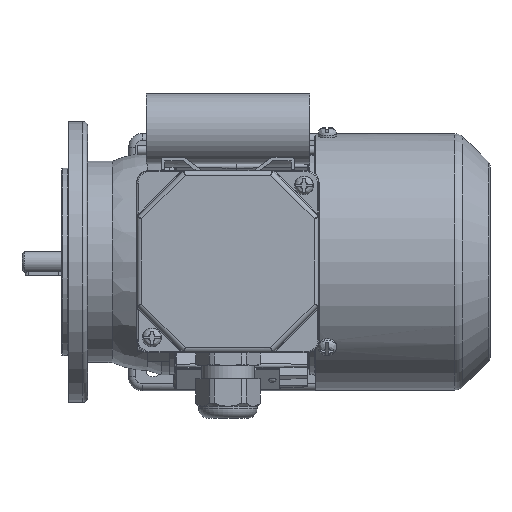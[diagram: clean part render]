
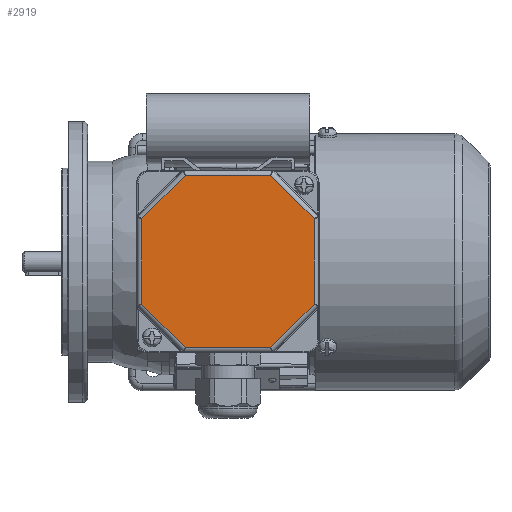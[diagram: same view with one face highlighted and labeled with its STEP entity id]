
A CAD part, top view. The second image highlights one B-rep face of the part: STEP entity #2919.
In plain terms, the highlighted planar face has unit normal (0, 0, 1).
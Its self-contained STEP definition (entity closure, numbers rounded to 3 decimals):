
#2919 = ADVANCED_FACE( '', ( #6850 ), #6851, .T. );
#6850 = FACE_OUTER_BOUND( '', #13266, .T. );
#6851 = PLANE( '', #13267 );
#13266 = EDGE_LOOP( '', ( #29585, #29586, #29587, #29588, #29589, #29590, #29591, #29592 ) );
#13267 = AXIS2_PLACEMENT_3D( '', #29593, #29594, #29595 );
#29585 = ORIENTED_EDGE( '', *, *, #44481, .T. );
#29586 = ORIENTED_EDGE( '', *, *, #44482, .T. );
#29587 = ORIENTED_EDGE( '', *, *, #44483, .T. );
#29588 = ORIENTED_EDGE( '', *, *, #44484, .T. );
#29589 = ORIENTED_EDGE( '', *, *, #44485, .T. );
#29590 = ORIENTED_EDGE( '', *, *, #44486, .T. );
#29591 = ORIENTED_EDGE( '', *, *, #44487, .T. );
#29592 = ORIENTED_EDGE( '', *, *, #44488, .T. );
#29593 = CARTESIAN_POINT( '', ( -39., 39., 12. ) );
#29594 = DIRECTION( '', ( 0., 0., 1. ) );
#29595 = DIRECTION( '', ( 1., 0., 0. ) );
#44481 = EDGE_CURVE( '', #52466, #52467, #52468, .F. );
#44482 = EDGE_CURVE( '', #52467, #52469, #52470, .T. );
#44483 = EDGE_CURVE( '', #52469, #52471, #52472, .F. );
#44484 = EDGE_CURVE( '', #52471, #52473, #52474, .T. );
#44485 = EDGE_CURVE( '', #52473, #52475, #52476, .F. );
#44486 = EDGE_CURVE( '', #52475, #52477, #52478, .T. );
#44487 = EDGE_CURVE( '', #52477, #52479, #52480, .F. );
#44488 = EDGE_CURVE( '', #52479, #52466, #52481, .T. );
#52466 = VERTEX_POINT( '', #63921 );
#52467 = VERTEX_POINT( '', #63922 );
#52468 = LINE( '', #63923, #63924 );
#52469 = VERTEX_POINT( '', #63925 );
#52470 = LINE( '', #63926, #63927 );
#52471 = VERTEX_POINT( '', #63928 );
#52472 = LINE( '', #63929, #63930 );
#52473 = VERTEX_POINT( '', #63931 );
#52474 = LINE( '', #63932, #63933 );
#52475 = VERTEX_POINT( '', #63934 );
#52476 = LINE( '', #63935, #63936 );
#52477 = VERTEX_POINT( '', #63937 );
#52478 = LINE( '', #63938, #63939 );
#52479 = VERTEX_POINT( '', #63940 );
#52480 = LINE( '', #63941, #63942 );
#52481 = LINE( '', #63943, #63944 );
#63921 = CARTESIAN_POINT( '', ( 36.825, -18.255, 12. ) );
#63922 = CARTESIAN_POINT( '', ( 36.825, 18.255, 12. ) );
#63923 = CARTESIAN_POINT( '', ( 36.825, 19.069, 12. ) );
#63924 = VECTOR( '', #81946, 1000. );
#63925 = CARTESIAN_POINT( '', ( 18.255, 36.825, 12. ) );
#63926 = CARTESIAN_POINT( '', ( 17.679, 37.401, 12. ) );
#63927 = VECTOR( '', #81947, 1000. );
#63928 = CARTESIAN_POINT( '', ( -18.255, 36.825, 12. ) );
#63929 = CARTESIAN_POINT( '', ( -19.069, 36.825, 12. ) );
#63930 = VECTOR( '', #81948, 1000. );
#63931 = CARTESIAN_POINT( '', ( -36.825, 18.255, 12. ) );
#63932 = CARTESIAN_POINT( '', ( -37.401, 17.679, 12. ) );
#63933 = VECTOR( '', #81949, 1000. );
#63934 = CARTESIAN_POINT( '', ( -36.825, -18.255, 12. ) );
#63935 = CARTESIAN_POINT( '', ( -36.825, -19.069, 12. ) );
#63936 = VECTOR( '', #81950, 1000. );
#63937 = CARTESIAN_POINT( '', ( -18.255, -36.825, 12. ) );
#63938 = CARTESIAN_POINT( '', ( -17.679, -37.401, 12. ) );
#63939 = VECTOR( '', #81951, 1000. );
#63940 = CARTESIAN_POINT( '', ( 18.255, -36.825, 12. ) );
#63941 = CARTESIAN_POINT( '', ( 19.069, -36.825, 12. ) );
#63942 = VECTOR( '', #81952, 1000. );
#63943 = CARTESIAN_POINT( '', ( 37.401, -17.679, 12. ) );
#63944 = VECTOR( '', #81953, 1000. );
#81946 = DIRECTION( '', ( 0., -1., 0. ) );
#81947 = DIRECTION( '', ( -0.707, 0.707, 0. ) );
#81948 = DIRECTION( '', ( 1., 0., 0. ) );
#81949 = DIRECTION( '', ( -0.707, -0.707, 0. ) );
#81950 = DIRECTION( '', ( 0., 1., 0. ) );
#81951 = DIRECTION( '', ( 0.707, -0.707, 0. ) );
#81952 = DIRECTION( '', ( -1., 0., 0. ) );
#81953 = DIRECTION( '', ( 0.707, 0.707, 0. ) );
